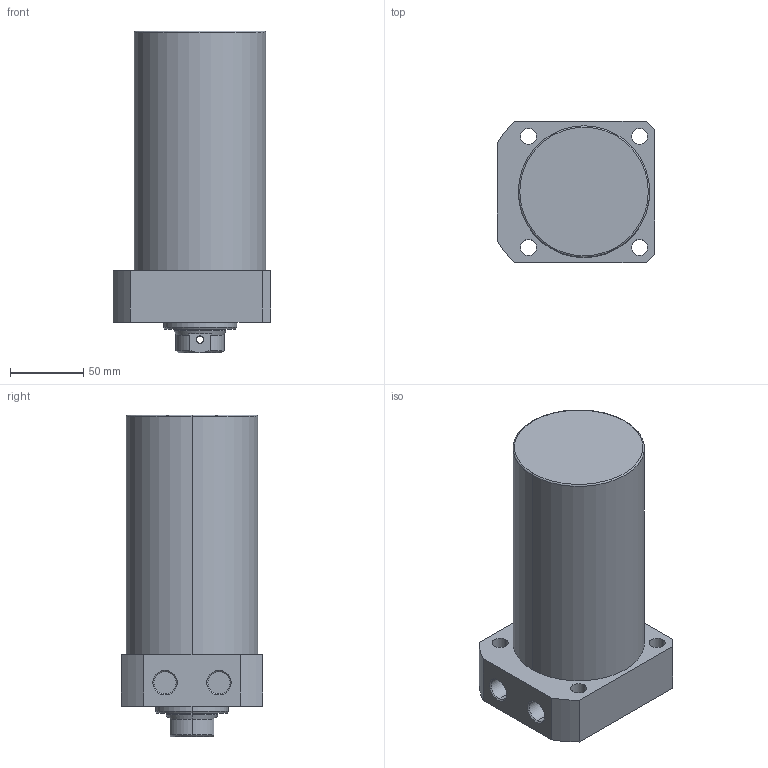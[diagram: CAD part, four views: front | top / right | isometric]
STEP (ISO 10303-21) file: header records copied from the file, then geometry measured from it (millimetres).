
FILE_DESCRIPTION (( 'STEP AP203' ), '1' );
FILE_NAME ('CLLR-090CB-120.STEP', '2019-12-18T06:16:50', ( '' ), ( '' ), 'SwSTEP 2.0', 'SolidWorks 2015', '' );
FILE_SCHEMA (( 'CONFIG_CONTROL_DESIGN' ));
Length unit declared in the file: millimetre
Products named in the file (1): CLLR-090CB-120
Bounding box: 108 x 97 x 220 mm (x, y, z)
Volume: 1391979.4 mm3; surface area: 91580.4 mm2
Topology: 1 solids, 1 shells, 69 faces, 163 edges, 102 vertices
Faces by surface type: cylinder 33, plane 19, cone 15, torus 2
Entity records: 2229 total; most frequent: CARTESIAN_POINT 497, DIRECTION 370, ORIENTED_EDGE 322, EDGE_CURVE 161, AXIS2_PLACEMENT_3D 151, VERTEX_POINT 102, EDGE_LOOP 89, CIRCLE 81
